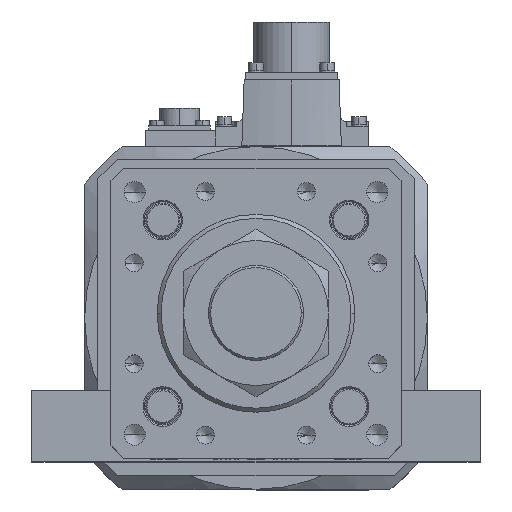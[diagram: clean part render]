
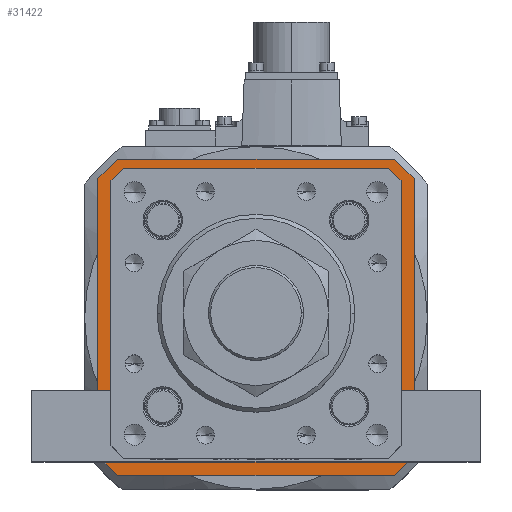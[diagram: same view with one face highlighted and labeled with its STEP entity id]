
A CAD part, top view. The second image highlights one B-rep face of the part: STEP entity #31422.
In plain terms, the highlighted planar face has unit normal (0, 0, 1) as drawn and (0, 0, -1) by its records, which use the part's own axes.
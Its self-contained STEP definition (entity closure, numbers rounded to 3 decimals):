
#67 = CARTESIAN_POINT ( 'NONE',  ( 60., 60., 52. ) ) ;
#398 = VERTEX_POINT ( 'NONE', #32355 ) ;
#538 = ORIENTED_EDGE ( 'NONE', *, *, #6276, .T. ) ;
#719 = CARTESIAN_POINT ( 'NONE',  ( -51.546, 51.546, 52. ) ) ;
#1132 = VECTOR ( 'NONE', #24765, 1000. ) ;
#1219 = EDGE_CURVE ( 'NONE', #10060, #23587, #13588, .T. ) ;
#1303 = ORIENTED_EDGE ( 'NONE', *, *, #22804, .T. ) ;
#1443 = VECTOR ( 'NONE', #17994, 1000. ) ;
#1471 = CARTESIAN_POINT ( 'NONE',  ( 52.5, -60., 52. ) ) ;
#1665 = LINE ( 'NONE', #719, #36864 ) ;
#1855 = CARTESIAN_POINT ( 'NONE',  ( 53.5, 49.593, 52. ) ) ;
#2091 = EDGE_CURVE ( 'NONE', #23587, #18772, #34621, .T. ) ;
#2207 = CARTESIAN_POINT ( 'NONE',  ( -60., -60., 52. ) ) ;
#3132 = CARTESIAN_POINT ( 'NONE',  ( 60., -52.5, 52. ) ) ;
#3485 = EDGE_CURVE ( 'NONE', #4736, #18805, #1665, .T. ) ;
#3625 = FACE_BOUND ( 'NONE', #25702, .T. ) ;
#4736 = VERTEX_POINT ( 'NONE', #5929 ) ;
#5141 = DIRECTION ( 'NONE',  ( 0.707, 0.707, 0. ) ) ;
#5292 = ORIENTED_EDGE ( 'NONE', *, *, #5947, .T. ) ;
#5363 = DIRECTION ( 'NONE',  ( 0., 1., 0. ) ) ;
#5708 = DIRECTION ( 'NONE',  ( 0., 0., 1. ) ) ;
#5929 = CARTESIAN_POINT ( 'NONE',  ( -49.593, 53.5, 52. ) ) ;
#5935 = CARTESIAN_POINT ( 'NONE',  ( 49.8, -53.5, 52. ) ) ;
#5947 = EDGE_CURVE ( 'NONE', #35803, #22449, #33368, .T. ) ;
#6037 = CARTESIAN_POINT ( 'NONE',  ( -52.5, -60., 52. ) ) ;
#6105 = ORIENTED_EDGE ( 'NONE', *, *, #30485, .T. ) ;
#6177 = ORIENTED_EDGE ( 'NONE', *, *, #2091, .T. ) ;
#6276 = EDGE_CURVE ( 'NONE', #37185, #4736, #8514, .T. ) ;
#7395 = CARTESIAN_POINT ( 'NONE',  ( 49.593, 53.5, 52. ) ) ;
#7571 = VECTOR ( 'NONE', #28929, 1000. ) ;
#7912 = VECTOR ( 'NONE', #5363, 1000. ) ;
#8162 = LINE ( 'NONE', #5935, #10501 ) ;
#8514 = LINE ( 'NONE', #19651, #7571 ) ;
#8847 = DIRECTION ( 'NONE',  ( 1., 0., 0. ) ) ;
#9245 = DIRECTION ( 'NONE',  ( -0.707, 0.707, 0. ) ) ;
#9517 = CARTESIAN_POINT ( 'NONE',  ( -52.5, -60., 52. ) ) ;
#10060 = VERTEX_POINT ( 'NONE', #27045 ) ;
#10501 = VECTOR ( 'NONE', #33183, 1000. ) ;
#10988 = CARTESIAN_POINT ( 'NONE',  ( -52.5, 60., 52. ) ) ;
#11336 = ORIENTED_EDGE ( 'NONE', *, *, #24216, .F. ) ;
#11348 = LINE ( 'NONE', #31890, #12748 ) ;
#11367 = EDGE_LOOP ( 'NONE', ( #11336, #34565, #25115, #19301, #21493, #15200, #20004, #5292 ) ) ;
#11469 = CARTESIAN_POINT ( 'NONE',  ( -49.593, -53.5, 52. ) ) ;
#12218 = VERTEX_POINT ( 'NONE', #11469 ) ;
#12580 = CARTESIAN_POINT ( 'NONE',  ( -53.5, -49.8, 52. ) ) ;
#12688 = VERTEX_POINT ( 'NONE', #19965 ) ;
#12748 = VECTOR ( 'NONE', #13934, 1000. ) ;
#12833 = VECTOR ( 'NONE', #15297, 1000. ) ;
#13465 = CARTESIAN_POINT ( 'NONE',  ( 53.5, -49.593, 52. ) ) ;
#13588 = LINE ( 'NONE', #28062, #30030 ) ;
#13934 = DIRECTION ( 'NONE',  ( -1., 0., 0. ) ) ;
#14687 = ORIENTED_EDGE ( 'NONE', *, *, #27993, .T. ) ;
#15118 = LINE ( 'NONE', #28843, #33854 ) ;
#15200 = ORIENTED_EDGE ( 'NONE', *, *, #32768, .T. ) ;
#15297 = DIRECTION ( 'NONE',  ( 0., 1., 0. ) ) ;
#15566 = LINE ( 'NONE', #2207, #38067 ) ;
#17724 = VERTEX_POINT ( 'NONE', #37235 ) ;
#17739 = AXIS2_PLACEMENT_3D ( 'NONE', #35817, #5708, #8847 ) ;
#17994 = DIRECTION ( 'NONE',  ( -0.707, -0.707, 0. ) ) ;
#18772 = VERTEX_POINT ( 'NONE', #1855 ) ;
#18805 = VERTEX_POINT ( 'NONE', #20276 ) ;
#18924 = DIRECTION ( 'NONE',  ( -0.707, 0.707, 0. ) ) ;
#19194 = ORIENTED_EDGE ( 'NONE', *, *, #37657, .T. ) ;
#19301 = ORIENTED_EDGE ( 'NONE', *, *, #25975, .T. ) ;
#19651 = CARTESIAN_POINT ( 'NONE',  ( -49.8, 53.5, 52. ) ) ;
#19965 = CARTESIAN_POINT ( 'NONE',  ( 60., 52.5, 52. ) ) ;
#20004 = ORIENTED_EDGE ( 'NONE', *, *, #36933, .F. ) ;
#20276 = CARTESIAN_POINT ( 'NONE',  ( -53.5, 49.593, 52. ) ) ;
#21313 = DIRECTION ( 'NONE',  ( 0.707, -0.707, 0. ) ) ;
#21493 = ORIENTED_EDGE ( 'NONE', *, *, #25869, .F. ) ;
#21549 = CARTESIAN_POINT ( 'NONE',  ( -53.5, -49.593, 52. ) ) ;
#21749 = CARTESIAN_POINT ( 'NONE',  ( 52.5, 60., 52. ) ) ;
#21861 = CARTESIAN_POINT ( 'NONE',  ( -60., 60., 52. ) ) ;
#22162 = VERTEX_POINT ( 'NONE', #10988 ) ;
#22449 = VERTEX_POINT ( 'NONE', #1471 ) ;
#22664 = ORIENTED_EDGE ( 'NONE', *, *, #3485, .T. ) ;
#22804 = EDGE_CURVE ( 'NONE', #12218, #10060, #8162, .T. ) ;
#22837 = CARTESIAN_POINT ( 'NONE',  ( -51.546, -51.546, 52. ) ) ;
#22887 = LINE ( 'NONE', #21861, #28004 ) ;
#22897 = VERTEX_POINT ( 'NONE', #21549 ) ;
#23213 = DIRECTION ( 'NONE',  ( 1., 0., 0. ) ) ;
#23587 = VERTEX_POINT ( 'NONE', #13465 ) ;
#24216 = EDGE_CURVE ( 'NONE', #24470, #22449, #15566, .T. ) ;
#24470 = VERTEX_POINT ( 'NONE', #6037 ) ;
#24763 = ORIENTED_EDGE ( 'NONE', *, *, #1219, .T. ) ;
#24765 = DIRECTION ( 'NONE',  ( 0., -1., 0. ) ) ;
#24923 = CARTESIAN_POINT ( 'NONE',  ( 51.546, 51.546, 52. ) ) ;
#25115 = ORIENTED_EDGE ( 'NONE', *, *, #29005, .F. ) ;
#25702 = EDGE_LOOP ( 'NONE', ( #19194, #538, #22664, #6105, #14687, #1303, #24763, #6177 ) ) ;
#25869 = EDGE_CURVE ( 'NONE', #32363, #22162, #11348, .T. ) ;
#25975 = EDGE_CURVE ( 'NONE', #17724, #22162, #15118, .T. ) ;
#26383 = VECTOR ( 'NONE', #18924, 1000. ) ;
#26512 = VECTOR ( 'NONE', #9245, 1000. ) ;
#26799 = PLANE ( 'NONE',  #17739 ) ;
#27045 = CARTESIAN_POINT ( 'NONE',  ( 49.593, -53.5, 52. ) ) ;
#27432 = LINE ( 'NONE', #12580, #1132 ) ;
#27993 = EDGE_CURVE ( 'NONE', #22897, #12218, #28564, .T. ) ;
#28004 = VECTOR ( 'NONE', #30747, 1000. ) ;
#28062 = CARTESIAN_POINT ( 'NONE',  ( 51.546, -51.546, 52. ) ) ;
#28564 = LINE ( 'NONE', #22837, #34660 ) ;
#28706 = LINE ( 'NONE', #24923, #26383 ) ;
#28835 = DIRECTION ( 'NONE',  ( 0.707, -0.707, 0. ) ) ;
#28843 = CARTESIAN_POINT ( 'NONE',  ( -60., 52.5, 52. ) ) ;
#28929 = DIRECTION ( 'NONE',  ( -1., 0., 0. ) ) ;
#28992 = FACE_OUTER_BOUND ( 'NONE', #11367, .T. ) ;
#29005 = EDGE_CURVE ( 'NONE', #17724, #398, #22887, .T. ) ;
#29737 = LINE ( 'NONE', #67, #12833 ) ;
#30030 = VECTOR ( 'NONE', #33718, 1000. ) ;
#30485 = EDGE_CURVE ( 'NONE', #18805, #22897, #27432, .T. ) ;
#30747 = DIRECTION ( 'NONE',  ( 0., -1., 0. ) ) ;
#31422 = ADVANCED_FACE ( 'NONE', ( #3625, #28992 ), #26799, .F. ) ;
#31866 = LINE ( 'NONE', #35922, #35586 ) ;
#31890 = CARTESIAN_POINT ( 'NONE',  ( -60., 60., 52. ) ) ;
#32355 = CARTESIAN_POINT ( 'NONE',  ( -60., -52.5, 52. ) ) ;
#32363 = VERTEX_POINT ( 'NONE', #21749 ) ;
#32768 = EDGE_CURVE ( 'NONE', #32363, #12688, #31866, .T. ) ;
#33183 = DIRECTION ( 'NONE',  ( 1., 0., 0. ) ) ;
#33368 = LINE ( 'NONE', #3132, #1443 ) ;
#33718 = DIRECTION ( 'NONE',  ( 0.707, 0.707, 0. ) ) ;
#33854 = VECTOR ( 'NONE', #5141, 1000. ) ;
#34464 = LINE ( 'NONE', #9517, #26512 ) ;
#34565 = ORIENTED_EDGE ( 'NONE', *, *, #35346, .T. ) ;
#34621 = LINE ( 'NONE', #35602, #7912 ) ;
#34660 = VECTOR ( 'NONE', #28835, 1000. ) ;
#35346 = EDGE_CURVE ( 'NONE', #24470, #398, #34464, .T. ) ;
#35586 = VECTOR ( 'NONE', #21313, 1000. ) ;
#35602 = CARTESIAN_POINT ( 'NONE',  ( 53.5, 49.8, 52. ) ) ;
#35803 = VERTEX_POINT ( 'NONE', #38594 ) ;
#35817 = CARTESIAN_POINT ( 'NONE',  ( 0., 0., 52. ) ) ;
#35922 = CARTESIAN_POINT ( 'NONE',  ( 52.5, 60., 52. ) ) ;
#36400 = DIRECTION ( 'NONE',  ( -0.707, -0.707, 0. ) ) ;
#36864 = VECTOR ( 'NONE', #36400, 1000. ) ;
#36933 = EDGE_CURVE ( 'NONE', #35803, #12688, #29737, .T. ) ;
#37185 = VERTEX_POINT ( 'NONE', #7395 ) ;
#37235 = CARTESIAN_POINT ( 'NONE',  ( -60., 52.5, 52. ) ) ;
#37657 = EDGE_CURVE ( 'NONE', #18772, #37185, #28706, .T. ) ;
#38067 = VECTOR ( 'NONE', #23213, 1000. ) ;
#38594 = CARTESIAN_POINT ( 'NONE',  ( 60., -52.5, 52. ) ) ;
